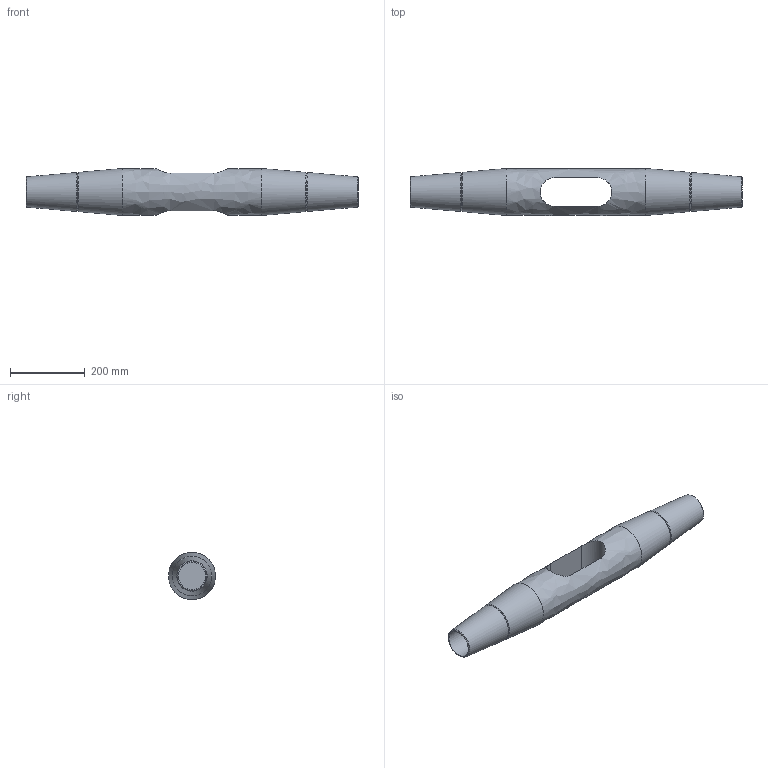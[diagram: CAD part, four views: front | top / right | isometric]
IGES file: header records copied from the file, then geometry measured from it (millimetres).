
Global section: file name: 520-070-KMF; native system: Autodesk Inventor 2016; preprocessor: unknown; author: Administrator; date: 20200702.132643; units: centimetre
Bounding box: 890 x 126 x 126 mm (x, y, z)
Volume: 6620878.4 mm3; surface area: 396423.9 mm2
Topology: 1 solids, 1 shells, 21 faces, 53 edges, 36 vertices
Faces by surface type: bspline 21
